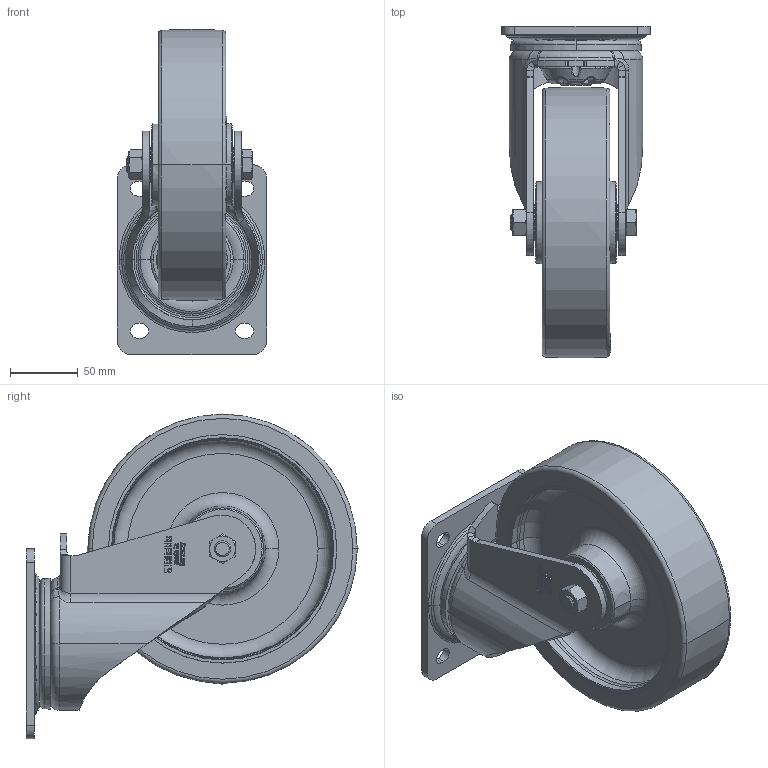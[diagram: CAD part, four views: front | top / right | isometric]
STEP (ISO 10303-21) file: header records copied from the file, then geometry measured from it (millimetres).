
FILE_DESCRIPTION (( 'STEP AP214' ), '1' );
FILE_NAME ('LH-GTH_200K_00695-214.step', '2022-01-01T10:16:08', ( '' ), ( '' ), 'SwSTEP 2.0', 'SolidWorks 2018', '' );
FILE_SCHEMA (( 'AUTOMOTIVE_DESIGN' ));
Length unit declared in the file: millimetre
Products named in the file (5): LH-GTH_200K_00695-214; GTH_200_20K_G16_3D; GH-LH-200x60-03_20x60_G16_3D; GH-LH_175-250_GH-LH-200x60-03_20x60; GTH_3D_G16_GTH_200_20K_027763
Assembly tree (4 placements, depth 3):
  LH-GTH_200K_00695-214
    GTH_3D_G16_GTH_200_20K_027763
      GTH_200_20K_G16_3D
    GH-LH_175-250_GH-LH-200x60-03_20x60
      GH-LH-200x60-03_20x60_G16_3D
Bounding box: 110 x 244.91 x 239.91 mm (x, y, z)
Volume: 1204877.5 mm3; surface area: 250452.3 mm2
Topology: 2 solids, 5 shells, 1883 faces, 4915 edges, 3185 vertices
Faces by surface type: plane 807, bspline 694, torus 146, cylinder 140, cone 92, sphere 4
Entity records: 73327 total; most frequent: CARTESIAN_POINT 27705, ORIENTED_EDGE 9812, DIRECTION 6354, EDGE_CURVE 4906, VERTEX_POINT 3182, LINE 2572, VECTOR 2572, EDGE_LOOP 2050
